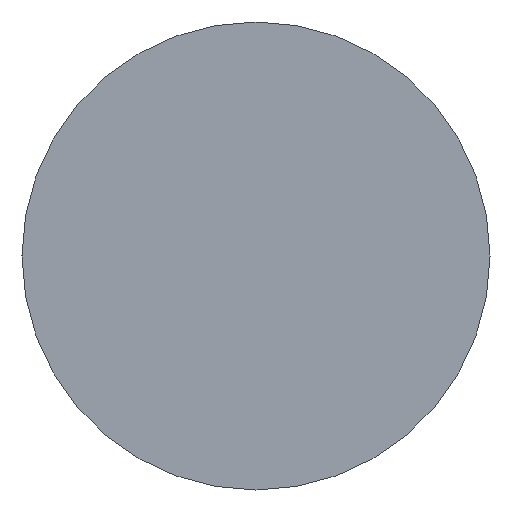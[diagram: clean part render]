
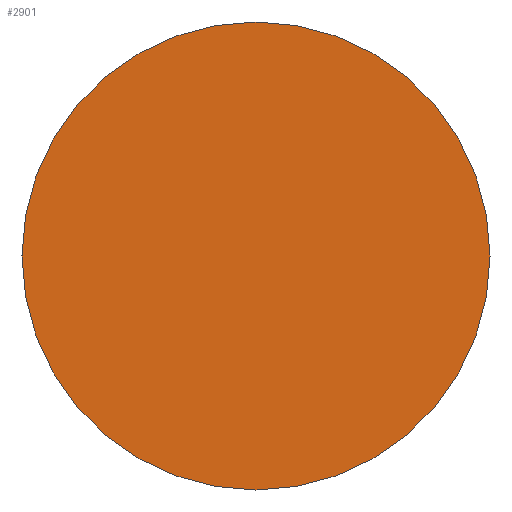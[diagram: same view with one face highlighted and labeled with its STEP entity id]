
A CAD part, front view. The second image highlights one B-rep face of the part: STEP entity #2901.
In plain terms, the highlighted planar face has unit normal (0, -1, 0).
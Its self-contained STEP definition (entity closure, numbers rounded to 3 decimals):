
#55 = PLANE ( 'NONE',  #3021 ) ;
#119 = FACE_OUTER_BOUND ( 'NONE', #345, .T. ) ;
#332 = DIRECTION ( 'NONE',  ( 0., -1., 0. ) ) ;
#345 = EDGE_LOOP ( 'NONE', ( #1291, #449 ) ) ;
#449 = ORIENTED_EDGE ( 'NONE', *, *, #3508, .T. ) ;
#532 = DIRECTION ( 'NONE',  ( 0., -1., 0. ) ) ;
#711 = DIRECTION ( 'NONE',  ( 0., -1., 0. ) ) ;
#792 = VERTEX_POINT ( 'NONE', #1811 ) ;
#1076 = CARTESIAN_POINT ( 'NONE',  ( 27.5, -24., 0. ) ) ;
#1228 = CARTESIAN_POINT ( 'NONE',  ( 27.5, -24., 0. ) ) ;
#1291 = ORIENTED_EDGE ( 'NONE', *, *, #2260, .T. ) ;
#1458 = AXIS2_PLACEMENT_3D ( 'NONE', #2300, #532, #3953 ) ;
#1811 = CARTESIAN_POINT ( 'NONE',  ( -27.5, -24., 0. ) ) ;
#1812 = VERTEX_POINT ( 'NONE', #1228 ) ;
#2260 = EDGE_CURVE ( 'NONE', #1812, #792, #2424, .T. ) ;
#2300 = CARTESIAN_POINT ( 'NONE',  ( 0., -24., 0. ) ) ;
#2424 = CIRCLE ( 'NONE', #1458, 27.5 ) ;
#2545 = DIRECTION ( 'NONE',  ( 1., 0., 0. ) ) ;
#2581 = DIRECTION ( 'NONE',  ( 1., 0., 0. ) ) ;
#2697 = AXIS2_PLACEMENT_3D ( 'NONE', #2757, #332, #2581 ) ;
#2757 = CARTESIAN_POINT ( 'NONE',  ( 0., -24., 0. ) ) ;
#2901 = ADVANCED_FACE ( 'NONE', ( #119 ), #55, .T. ) ;
#3021 = AXIS2_PLACEMENT_3D ( 'NONE', #1076, #711, #2545 ) ;
#3508 = EDGE_CURVE ( 'NONE', #792, #1812, #3885, .T. ) ;
#3885 = CIRCLE ( 'NONE', #2697, 27.5 ) ;
#3953 = DIRECTION ( 'NONE',  ( 1., 0., 0. ) ) ;
